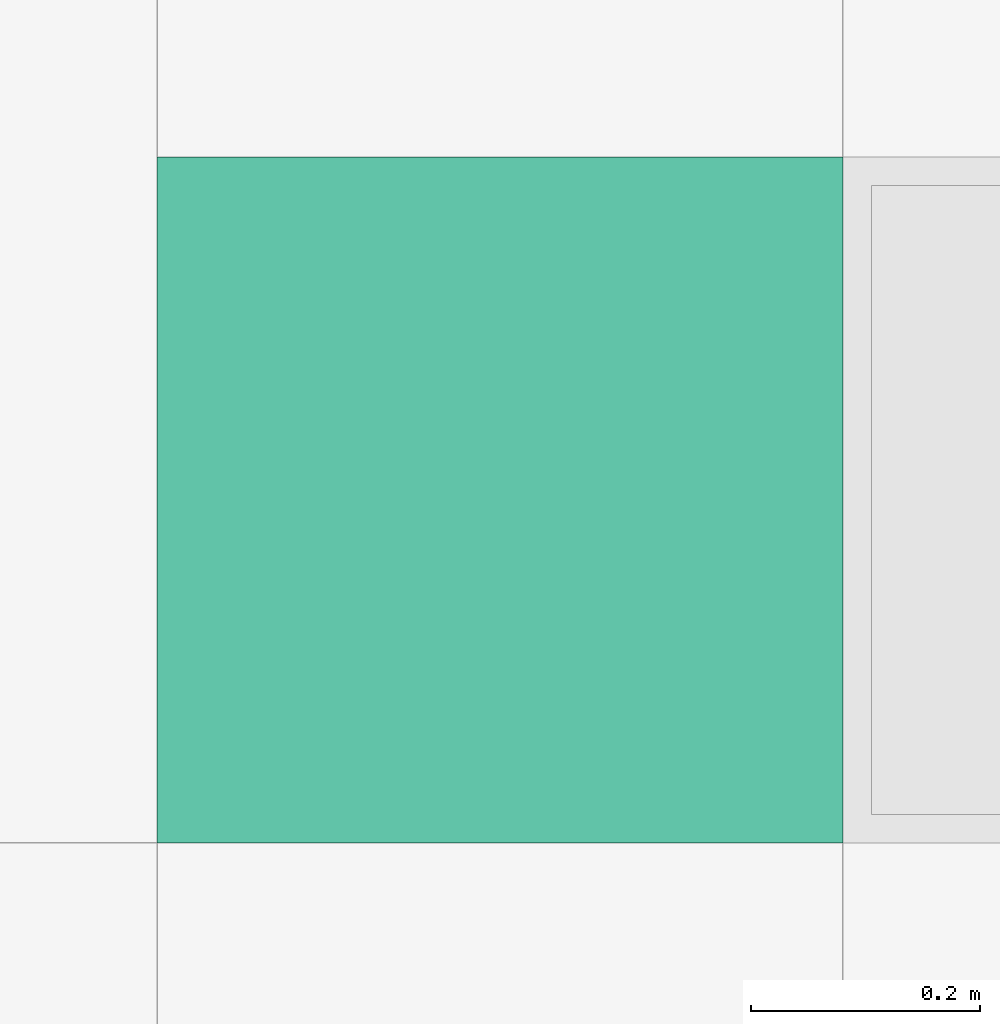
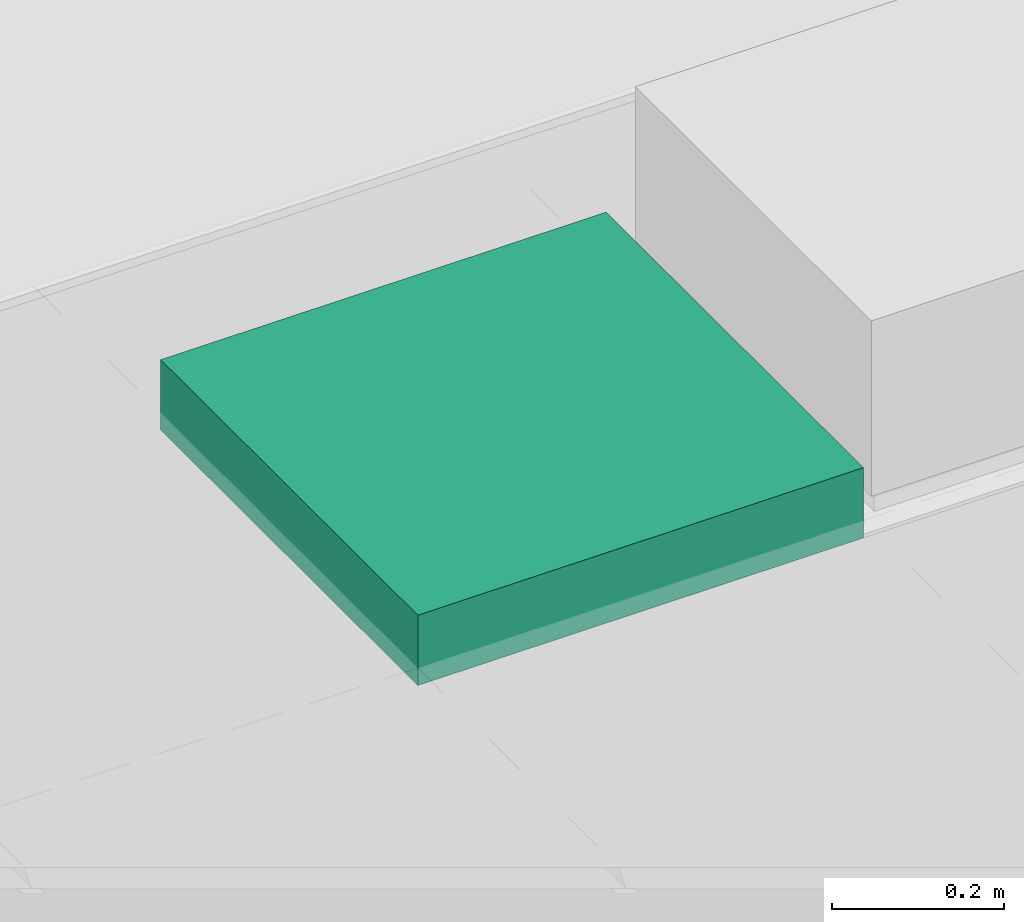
# One storey, part 296 of 347: 1 flow terminal.
"""IFC2X3 building model written with IfcOpenShell, lengths in millimetres."""

from ifc_helpers import new_model, entity, si_unit, converted_unit, derived_unit, money_unit, direction, frame, origin_with_axes, place, context, subcontext, project, spatial, open_shell, faceted_brep, surface_model, source, transform, mapped, type_object, type_shapes, element, save


model = new_model("IFC2X3")

# Units and contexts
model_context = context("Model", 3, precision=0.01, world=origin_with_axes(), true_north=direction((0.0, 1.0)))
plan_context = context("Plan", 3, precision=0.01, world=origin_with_axes(), true_north=direction((0.0, 1.0)))
body_context = subcontext(model_context, "Body", "Model", "MODEL_VIEW")
ifc_project = project(units=[si_unit("LENGTHUNIT", "METRE", prefix="MILLI"), si_unit("AREAUNIT", "SQUARE_METRE"), si_unit("VOLUMEUNIT", "CUBIC_METRE"), converted_unit("PLANEANGLEUNIT", "DEGREE", entity("IfcPlaneAngleMeasure", 0.0174532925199), si_unit("PLANEANGLEUNIT", "RADIAN"), dimensions=[0, 0, 0, 0, 0, 0, 0]), money_unit("EUR"), converted_unit("TIMEUNIT", "Year", entity("IfcTimeMeasure", 31556926.0), si_unit("TIMEUNIT", "SECOND"), dimensions=[0, 0, 1, 0, 0, 0, 0]), si_unit("MASSUNIT", "GRAM", prefix="KILO"), si_unit("THERMODYNAMICTEMPERATUREUNIT", "DEGREE_CELSIUS"), si_unit("LUMINOUSINTENSITYUNIT", "LUMEN"), si_unit("ENERGYUNIT", "JOULE", prefix="MEGA"), derived_unit("THERMALCONDUCTANCEUNIT", [(si_unit("POWERUNIT", "WATT"), 1), (si_unit("LENGTHUNIT", "METRE"), -1), (si_unit("THERMODYNAMICTEMPERATUREUNIT", "KELVIN"), -1)]), derived_unit("SPECIFICHEATCAPACITYUNIT", [(si_unit("ENERGYUNIT", "JOULE"), 1), (si_unit("MASSUNIT", "GRAM", prefix="KILO"), -1), (si_unit("THERMODYNAMICTEMPERATUREUNIT", "KELVIN"), -1)]), derived_unit("MASSDENSITYUNIT", [(si_unit("MASSUNIT", "GRAM", prefix="KILO"), 1), (si_unit("VOLUMEUNIT", "CUBIC_METRE"), -1)])], contexts=[model_context, plan_context])

# Site, building, storey
site_placement = place(None, origin_with_axes())
site = spatial("IfcSite", under=ifc_project, at=site_placement, Name="Site", CompositionType="ELEMENT")
building_placement = place(site_placement, origin_with_axes())
building = spatial("IfcBuilding", under=site, at=building_placement, Name="Naam gebouw", CompositionType="ELEMENT")
storey_placement = place(building_placement, origin_with_axes())
storey = spatial("IfcBuildingStorey", under=building, at=storey_placement, Name="begane grond", CompositionType="ELEMENT", Elevation=0.0)

# Flow terminal
lamp_type = type_object("IfcLampType", Name="TL plafond 25", PredefinedType="NOTDEFINED")
shared_shape = source(origin_with_axes(), body_context, "Body", "SurfaceModel", [
    faceted_brep([(0.0, 0.0, -100.0), (0.0, 0.0, 0.0), (-600.0, 0.0, 0.0), (-600.0, 0.0, -100.0), (0.0, 600.0, -100.0), (0.0, 600.0, 0.0), (-600.0, 600.0, 0.0), (-40.0, 40.0, 0.0), (-560.0, 40.0, 0.0), (-560.0, 560.0, 0.0), (-40.0, 560.0, 0.0), (-600.0, 600.0, -100.0), (-40.0, 40.0, -100.0), (-40.0, 560.0, -100.0), (-560.0, 560.0, -100.0), (-560.0, 40.0, -100.0)], [[[0, 1, 2, 3]], [[4, 5, 1, 0]], [[1, 5, 6, 2], [7, 8, 9, 10]], [[3, 2, 6, 11]], [[0, 3, 11, 4], [12, 13, 14, 15]], [[11, 6, 5, 4]], [[15, 8, 7, 12]], [[14, 9, 8, 15]], [[13, 10, 9, 14]], [[12, 7, 10, 13]]]),
    faceted_brep([(-40.0, 40.0, -16.3333333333), (-40.0, 40.0, 0.0), (-560.0, 40.0, 0.0), (-560.0, 40.0, -16.3333333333), (-40.0, 560.0, -16.3333333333), (-40.0, 560.0, 0.0), (-560.0, 560.0, 0.0), (-560.0, 560.0, -16.3333333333)], [[[0, 1, 2, 3]], [[4, 5, 1, 0]], [[1, 5, 6, 2]], [[3, 2, 6, 7]], [[0, 3, 7, 4]], [[7, 6, 5, 4]]]),
    surface_model("IfcShellBasedSurfaceModel", [(-559.0, 41.0, -100.0), (-559.0, 559.0, -100.0), (-40.0, 559.0, -100.0), (-40.0, 41.0, -100.0)], [open_shell([[[0, 1, 2, 3]]])]),
    faceted_brep([(-40.0, 40.0, -100.0), (-40.0, 40.0, -60.0), (-560.0, 40.0, -60.0), (-560.0, 40.0, -100.0), (-40.0, 560.0, -100.0), (-40.0, 560.0, -60.0), (-560.0, 560.0, -60.0), (-41.0, 41.0, -60.0), (-559.0, 41.0, -60.0), (-559.0, 559.0, -60.0), (-41.0, 559.0, -60.0), (-560.0, 560.0, -100.0), (-41.0, 41.0, -100.0), (-41.0, 559.0, -100.0), (-559.0, 559.0, -100.0), (-559.0, 41.0, -100.0)], [[[0, 1, 2, 3]], [[4, 5, 1, 0]], [[1, 5, 6, 2], [7, 8, 9, 10]], [[3, 2, 6, 11]], [[0, 3, 11, 4], [12, 13, 14, 15]], [[11, 6, 5, 4]], [[15, 8, 7, 12]], [[14, 9, 8, 15]], [[13, 10, 9, 14]], [[12, 7, 10, 13]]]),
    faceted_brep([(-40.0, 144.0, -48.3333333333), (-560.0, 144.0, -48.3333333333), (-560.0, 149.740251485, -47.191526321), (-40.0, 149.740251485, -47.191526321), (-40.0, 138.259748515, -47.191526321), (-560.0, 138.259748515, -47.191526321), (-560.0, 133.393398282, -43.9399350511), (-560.0, 130.141807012, -39.0735848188), (-560.0, 129.0, -33.3333333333), (-560.0, 130.141807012, -27.5930818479), (-560.0, 133.393398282, -22.7267316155), (-560.0, 138.259748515, -19.4751403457), (-560.0, 144.0, -18.3333333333), (-560.0, 149.740251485, -19.4751403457), (-560.0, 154.606601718, -22.7267316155), (-560.0, 157.858192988, -27.5930818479), (-560.0, 159.0, -33.3333333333), (-560.0, 157.858192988, -39.0735848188), (-560.0, 154.606601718, -43.9399350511), (-560.0, 144.0, -46.3333333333), (-560.0, 148.974884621, -45.343767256), (-560.0, 153.192388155, -42.5257214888), (-560.0, 156.010433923, -38.3082179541), (-560.0, 157.0, -33.3333333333), (-560.0, 156.010433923, -28.3584487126), (-560.0, 153.192388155, -24.1409451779), (-560.0, 148.974884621, -21.3228994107), (-560.0, 144.0, -20.3333333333), (-560.0, 139.025115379, -21.3228994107), (-560.0, 134.807611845, -24.1409451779), (-560.0, 131.989566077, -28.3584487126), (-560.0, 131.0, -33.3333333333), (-560.0, 131.989566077, -38.3082179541), (-560.0, 134.807611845, -42.5257214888), (-560.0, 139.025115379, -45.343767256), (-40.0, 154.606601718, -43.9399350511), (-40.0, 157.858192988, -39.0735848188), (-40.0, 159.0, -33.3333333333), (-40.0, 157.858192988, -27.5930818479), (-40.0, 154.606601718, -22.7267316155), (-40.0, 149.740251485, -19.4751403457), (-40.0, 144.0, -18.3333333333), (-40.0, 138.259748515, -19.4751403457), (-40.0, 133.393398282, -22.7267316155), (-40.0, 130.141807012, -27.5930818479), (-40.0, 129.0, -33.3333333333), (-40.0, 130.141807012, -39.0735848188), (-40.0, 133.393398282, -43.9399350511), (-40.0, 144.0, -46.3333333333), (-40.0, 139.025115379, -45.343767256), (-40.0, 134.807611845, -42.5257214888), (-40.0, 131.989566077, -38.3082179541), (-40.0, 131.0, -33.3333333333), (-40.0, 131.989566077, -28.3584487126), (-40.0, 134.807611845, -24.1409451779), (-40.0, 139.025115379, -21.3228994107), (-40.0, 144.0, -20.3333333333), (-40.0, 148.974884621, -21.3228994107), (-40.0, 153.192388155, -24.1409451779), (-40.0, 156.010433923, -28.3584487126), (-40.0, 157.0, -33.3333333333), (-40.0, 156.010433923, -38.3082179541), (-40.0, 153.192388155, -42.5257214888), (-40.0, 148.974884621, -45.343767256)], [[[0, 1, 2, 3]], [[4, 5, 1, 0]], [[1, 5, 6, 7, 8, 9, 10, 11, 12, 13, 14, 15, 16, 17, 18, 2], [19, 20, 21, 22, 23, 24, 25, 26, 27, 28, 29, 30, 31, 32, 33, 34]], [[3, 2, 18, 35]], [[0, 3, 35, 36, 37, 38, 39, 40, 41, 42, 43, 44, 45, 46, 47, 4], [48, 49, 50, 51, 52, 53, 54, 55, 56, 57, 58, 59, 60, 61, 62, 63]], [[47, 6, 5, 4]], [[46, 7, 6, 47]], [[45, 8, 7, 46]], [[44, 9, 8, 45]], [[43, 10, 9, 44]], [[42, 11, 10, 43]], [[41, 12, 11, 42]], [[40, 13, 12, 41]], [[39, 14, 13, 40]], [[38, 15, 14, 39]], [[37, 16, 15, 38]], [[36, 17, 16, 37]], [[35, 18, 17, 36]], [[63, 20, 19, 48]], [[62, 21, 20, 63]], [[61, 22, 21, 62]], [[60, 23, 22, 61]], [[59, 24, 23, 60]], [[58, 25, 24, 59]], [[57, 26, 25, 58]], [[56, 27, 26, 57]], [[55, 28, 27, 56]], [[54, 29, 28, 55]], [[53, 30, 29, 54]], [[52, 31, 30, 53]], [[51, 32, 31, 52]], [[50, 33, 32, 51]], [[49, 34, 33, 50]], [[48, 19, 34, 49]]]),
    faceted_brep([(-40.0, 248.0, -48.3333333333), (-560.0, 248.0, -48.3333333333), (-560.0, 253.740251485, -47.191526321), (-40.0, 253.740251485, -47.191526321), (-40.0, 242.259748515, -47.191526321), (-560.0, 242.259748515, -47.191526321), (-560.0, 237.393398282, -43.9399350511), (-560.0, 234.141807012, -39.0735848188), (-560.0, 233.0, -33.3333333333), (-560.0, 234.141807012, -27.5930818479), (-560.0, 237.393398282, -22.7267316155), (-560.0, 242.259748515, -19.4751403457), (-560.0, 248.0, -18.3333333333), (-560.0, 253.740251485, -19.4751403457), (-560.0, 258.606601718, -22.7267316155), (-560.0, 261.858192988, -27.5930818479), (-560.0, 263.0, -33.3333333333), (-560.0, 261.858192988, -39.0735848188), (-560.0, 258.606601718, -43.9399350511), (-560.0, 248.0, -46.3333333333), (-560.0, 252.974884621, -45.343767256), (-560.0, 257.192388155, -42.5257214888), (-560.0, 260.010433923, -38.3082179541), (-560.0, 261.0, -33.3333333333), (-560.0, 260.010433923, -28.3584487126), (-560.0, 257.192388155, -24.1409451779), (-560.0, 252.974884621, -21.3228994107), (-560.0, 248.0, -20.3333333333), (-560.0, 243.025115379, -21.3228994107), (-560.0, 238.807611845, -24.1409451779), (-560.0, 235.989566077, -28.3584487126), (-560.0, 235.0, -33.3333333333), (-560.0, 235.989566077, -38.3082179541), (-560.0, 238.807611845, -42.5257214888), (-560.0, 243.025115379, -45.343767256), (-40.0, 258.606601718, -43.9399350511), (-40.0, 261.858192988, -39.0735848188), (-40.0, 263.0, -33.3333333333), (-40.0, 261.858192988, -27.5930818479), (-40.0, 258.606601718, -22.7267316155), (-40.0, 253.740251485, -19.4751403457), (-40.0, 248.0, -18.3333333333), (-40.0, 242.259748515, -19.4751403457), (-40.0, 237.393398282, -22.7267316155), (-40.0, 234.141807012, -27.5930818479), (-40.0, 233.0, -33.3333333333), (-40.0, 234.141807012, -39.0735848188), (-40.0, 237.393398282, -43.9399350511), (-40.0, 248.0, -46.3333333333), (-40.0, 243.025115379, -45.343767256), (-40.0, 238.807611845, -42.5257214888), (-40.0, 235.989566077, -38.3082179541), (-40.0, 235.0, -33.3333333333), (-40.0, 235.989566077, -28.3584487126), (-40.0, 238.807611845, -24.1409451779), (-40.0, 243.025115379, -21.3228994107), (-40.0, 248.0, -20.3333333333), (-40.0, 252.974884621, -21.3228994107), (-40.0, 257.192388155, -24.1409451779), (-40.0, 260.010433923, -28.3584487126), (-40.0, 261.0, -33.3333333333), (-40.0, 260.010433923, -38.3082179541), (-40.0, 257.192388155, -42.5257214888), (-40.0, 252.974884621, -45.343767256)], [[[0, 1, 2, 3]], [[4, 5, 1, 0]], [[1, 5, 6, 7, 8, 9, 10, 11, 12, 13, 14, 15, 16, 17, 18, 2], [19, 20, 21, 22, 23, 24, 25, 26, 27, 28, 29, 30, 31, 32, 33, 34]], [[3, 2, 18, 35]], [[0, 3, 35, 36, 37, 38, 39, 40, 41, 42, 43, 44, 45, 46, 47, 4], [48, 49, 50, 51, 52, 53, 54, 55, 56, 57, 58, 59, 60, 61, 62, 63]], [[47, 6, 5, 4]], [[46, 7, 6, 47]], [[45, 8, 7, 46]], [[44, 9, 8, 45]], [[43, 10, 9, 44]], [[42, 11, 10, 43]], [[41, 12, 11, 42]], [[40, 13, 12, 41]], [[39, 14, 13, 40]], [[38, 15, 14, 39]], [[37, 16, 15, 38]], [[36, 17, 16, 37]], [[35, 18, 17, 36]], [[63, 20, 19, 48]], [[62, 21, 20, 63]], [[61, 22, 21, 62]], [[60, 23, 22, 61]], [[59, 24, 23, 60]], [[58, 25, 24, 59]], [[57, 26, 25, 58]], [[56, 27, 26, 57]], [[55, 28, 27, 56]], [[54, 29, 28, 55]], [[53, 30, 29, 54]], [[52, 31, 30, 53]], [[51, 32, 31, 52]], [[50, 33, 32, 51]], [[49, 34, 33, 50]], [[48, 19, 34, 49]]]),
    faceted_brep([(-40.0, 352.0, -48.3333333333), (-560.0, 352.0, -48.3333333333), (-560.0, 357.740251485, -47.191526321), (-40.0, 357.740251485, -47.191526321), (-40.0, 346.259748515, -47.191526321), (-560.0, 346.259748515, -47.191526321), (-560.0, 341.393398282, -43.9399350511), (-560.0, 338.141807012, -39.0735848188), (-560.0, 337.0, -33.3333333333), (-560.0, 338.141807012, -27.5930818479), (-560.0, 341.393398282, -22.7267316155), (-560.0, 346.259748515, -19.4751403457), (-560.0, 352.0, -18.3333333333), (-560.0, 357.740251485, -19.4751403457), (-560.0, 362.606601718, -22.7267316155), (-560.0, 365.858192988, -27.5930818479), (-560.0, 367.0, -33.3333333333), (-560.0, 365.858192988, -39.0735848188), (-560.0, 362.606601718, -43.9399350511), (-560.0, 352.0, -46.3333333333), (-560.0, 356.974884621, -45.343767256), (-560.0, 361.192388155, -42.5257214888), (-560.0, 364.010433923, -38.3082179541), (-560.0, 365.0, -33.3333333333), (-560.0, 364.010433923, -28.3584487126), (-560.0, 361.192388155, -24.1409451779), (-560.0, 356.974884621, -21.3228994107), (-560.0, 352.0, -20.3333333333), (-560.0, 347.025115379, -21.3228994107), (-560.0, 342.807611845, -24.1409451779), (-560.0, 339.989566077, -28.3584487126), (-560.0, 339.0, -33.3333333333), (-560.0, 339.989566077, -38.3082179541), (-560.0, 342.807611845, -42.5257214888), (-560.0, 347.025115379, -45.343767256), (-40.0, 362.606601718, -43.9399350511), (-40.0, 365.858192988, -39.0735848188), (-40.0, 367.0, -33.3333333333), (-40.0, 365.858192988, -27.5930818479), (-40.0, 362.606601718, -22.7267316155), (-40.0, 357.740251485, -19.4751403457), (-40.0, 352.0, -18.3333333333), (-40.0, 346.259748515, -19.4751403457), (-40.0, 341.393398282, -22.7267316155), (-40.0, 338.141807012, -27.5930818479), (-40.0, 337.0, -33.3333333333), (-40.0, 338.141807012, -39.0735848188), (-40.0, 341.393398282, -43.9399350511), (-40.0, 352.0, -46.3333333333), (-40.0, 347.025115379, -45.343767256), (-40.0, 342.807611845, -42.5257214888), (-40.0, 339.989566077, -38.3082179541), (-40.0, 339.0, -33.3333333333), (-40.0, 339.989566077, -28.3584487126), (-40.0, 342.807611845, -24.1409451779), (-40.0, 347.025115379, -21.3228994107), (-40.0, 352.0, -20.3333333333), (-40.0, 356.974884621, -21.3228994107), (-40.0, 361.192388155, -24.1409451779), (-40.0, 364.010433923, -28.3584487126), (-40.0, 365.0, -33.3333333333), (-40.0, 364.010433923, -38.3082179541), (-40.0, 361.192388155, -42.5257214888), (-40.0, 356.974884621, -45.343767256)], [[[0, 1, 2, 3]], [[4, 5, 1, 0]], [[1, 5, 6, 7, 8, 9, 10, 11, 12, 13, 14, 15, 16, 17, 18, 2], [19, 20, 21, 22, 23, 24, 25, 26, 27, 28, 29, 30, 31, 32, 33, 34]], [[3, 2, 18, 35]], [[0, 3, 35, 36, 37, 38, 39, 40, 41, 42, 43, 44, 45, 46, 47, 4], [48, 49, 50, 51, 52, 53, 54, 55, 56, 57, 58, 59, 60, 61, 62, 63]], [[47, 6, 5, 4]], [[46, 7, 6, 47]], [[45, 8, 7, 46]], [[44, 9, 8, 45]], [[43, 10, 9, 44]], [[42, 11, 10, 43]], [[41, 12, 11, 42]], [[40, 13, 12, 41]], [[39, 14, 13, 40]], [[38, 15, 14, 39]], [[37, 16, 15, 38]], [[36, 17, 16, 37]], [[35, 18, 17, 36]], [[63, 20, 19, 48]], [[62, 21, 20, 63]], [[61, 22, 21, 62]], [[60, 23, 22, 61]], [[59, 24, 23, 60]], [[58, 25, 24, 59]], [[57, 26, 25, 58]], [[56, 27, 26, 57]], [[55, 28, 27, 56]], [[54, 29, 28, 55]], [[53, 30, 29, 54]], [[52, 31, 30, 53]], [[51, 32, 31, 52]], [[50, 33, 32, 51]], [[49, 34, 33, 50]], [[48, 19, 34, 49]]]),
    faceted_brep([(-40.0, 456.0, -48.3333333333), (-560.0, 456.0, -48.3333333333), (-560.0, 461.740251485, -47.191526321), (-40.0, 461.740251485, -47.191526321), (-40.0, 450.259748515, -47.191526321), (-560.0, 450.259748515, -47.191526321), (-560.0, 445.393398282, -43.9399350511), (-560.0, 442.141807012, -39.0735848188), (-560.0, 441.0, -33.3333333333), (-560.0, 442.141807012, -27.5930818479), (-560.0, 445.393398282, -22.7267316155), (-560.0, 450.259748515, -19.4751403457), (-560.0, 456.0, -18.3333333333), (-560.0, 461.740251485, -19.4751403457), (-560.0, 466.606601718, -22.7267316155), (-560.0, 469.858192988, -27.5930818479), (-560.0, 471.0, -33.3333333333), (-560.0, 469.858192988, -39.0735848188), (-560.0, 466.606601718, -43.9399350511), (-560.0, 456.0, -46.3333333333), (-560.0, 460.974884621, -45.343767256), (-560.0, 465.192388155, -42.5257214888), (-560.0, 468.010433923, -38.3082179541), (-560.0, 469.0, -33.3333333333), (-560.0, 468.010433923, -28.3584487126), (-560.0, 465.192388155, -24.1409451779), (-560.0, 460.974884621, -21.3228994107), (-560.0, 456.0, -20.3333333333), (-560.0, 451.025115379, -21.3228994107), (-560.0, 446.807611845, -24.1409451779), (-560.0, 443.989566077, -28.3584487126), (-560.0, 443.0, -33.3333333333), (-560.0, 443.989566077, -38.3082179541), (-560.0, 446.807611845, -42.5257214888), (-560.0, 451.025115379, -45.343767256), (-40.0, 466.606601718, -43.9399350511), (-40.0, 469.858192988, -39.0735848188), (-40.0, 471.0, -33.3333333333), (-40.0, 469.858192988, -27.5930818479), (-40.0, 466.606601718, -22.7267316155), (-40.0, 461.740251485, -19.4751403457), (-40.0, 456.0, -18.3333333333), (-40.0, 450.259748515, -19.4751403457), (-40.0, 445.393398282, -22.7267316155), (-40.0, 442.141807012, -27.5930818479), (-40.0, 441.0, -33.3333333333), (-40.0, 442.141807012, -39.0735848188), (-40.0, 445.393398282, -43.9399350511), (-40.0, 456.0, -46.3333333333), (-40.0, 451.025115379, -45.343767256), (-40.0, 446.807611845, -42.5257214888), (-40.0, 443.989566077, -38.3082179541), (-40.0, 443.0, -33.3333333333), (-40.0, 443.989566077, -28.3584487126), (-40.0, 446.807611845, -24.1409451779), (-40.0, 451.025115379, -21.3228994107), (-40.0, 456.0, -20.3333333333), (-40.0, 460.974884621, -21.3228994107), (-40.0, 465.192388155, -24.1409451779), (-40.0, 468.010433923, -28.3584487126), (-40.0, 469.0, -33.3333333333), (-40.0, 468.010433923, -38.3082179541), (-40.0, 465.192388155, -42.5257214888), (-40.0, 460.974884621, -45.343767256)], [[[0, 1, 2, 3]], [[4, 5, 1, 0]], [[1, 5, 6, 7, 8, 9, 10, 11, 12, 13, 14, 15, 16, 17, 18, 2], [19, 20, 21, 22, 23, 24, 25, 26, 27, 28, 29, 30, 31, 32, 33, 34]], [[3, 2, 18, 35]], [[0, 3, 35, 36, 37, 38, 39, 40, 41, 42, 43, 44, 45, 46, 47, 4], [48, 49, 50, 51, 52, 53, 54, 55, 56, 57, 58, 59, 60, 61, 62, 63]], [[47, 6, 5, 4]], [[46, 7, 6, 47]], [[45, 8, 7, 46]], [[44, 9, 8, 45]], [[43, 10, 9, 44]], [[42, 11, 10, 43]], [[41, 12, 11, 42]], [[40, 13, 12, 41]], [[39, 14, 13, 40]], [[38, 15, 14, 39]], [[37, 16, 15, 38]], [[36, 17, 16, 37]], [[35, 18, 17, 36]], [[63, 20, 19, 48]], [[62, 21, 20, 63]], [[61, 22, 21, 62]], [[60, 23, 22, 61]], [[59, 24, 23, 60]], [[58, 25, 24, 59]], [[57, 26, 25, 58]], [[56, 27, 26, 57]], [[55, 28, 27, 56]], [[54, 29, 28, 55]], [[53, 30, 29, 54]], [[52, 31, 30, 53]], [[51, 32, 31, 52]], [[50, 33, 32, 51]], [[49, 34, 33, 50]], [[48, 19, 34, 49]]]),
])
type_shapes(lamp_type, [shared_shape])
flow_terminal_placement = place(storey_placement, frame((49874.9999999, 45390.5, 3295.0), z_axis=(0.0, 0.0, 1.0), x_axis=(1.0, 0.0, 0.0)))
element("IfcFlowTerminal", 1, at=flow_terminal_placement, inside=storey, type_object=lamp_type, Name="63_Lamp-x", ObjectType="Lamp", context=body_context, shape_type="MappedRepresentation", body=[
    mapped(shared_shape, transform((0.0, 0.0, 0.0))),
])

save(model, "model.ifc")
